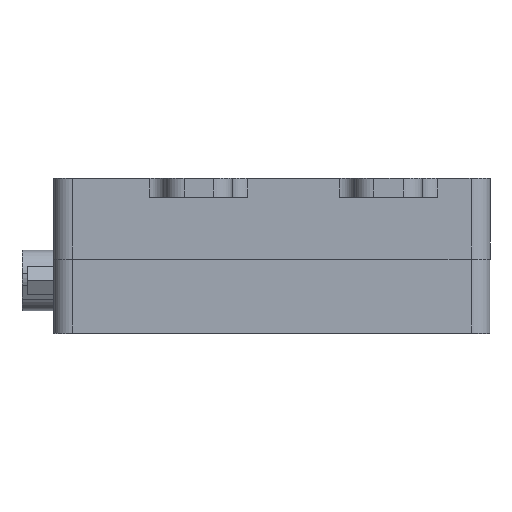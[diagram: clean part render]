
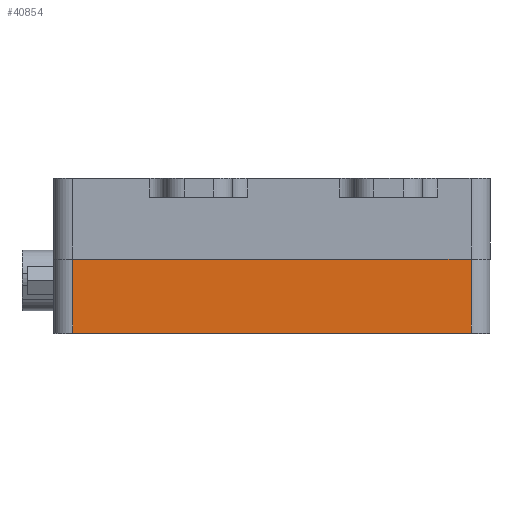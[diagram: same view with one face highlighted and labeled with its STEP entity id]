
A CAD part, top view. The second image highlights one B-rep face of the part: STEP entity #40854.
In plain terms, the highlighted planar face has unit normal (0, 0, 1).
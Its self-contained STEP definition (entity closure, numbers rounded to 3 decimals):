
#1086 = VECTOR ( 'NONE', #89242, 1000. ) ;
#12256 = EDGE_CURVE ( 'NONE', #56464, #29078, #24486, .T. ) ;
#14583 = CARTESIAN_POINT ( 'NONE',  ( -21.25, -9.5, 16.45 ) ) ;
#16089 = ORIENTED_EDGE ( 'NONE', *, *, #74497, .F. ) ;
#16714 = LINE ( 'NONE', #59207, #88074 ) ;
#18750 = CARTESIAN_POINT ( 'NONE',  ( 22.75, -9.5, 16.45 ) ) ;
#19506 = LINE ( 'NONE', #34004, #1086 ) ;
#21423 = PLANE ( 'NONE',  #87501 ) ;
#21702 = CARTESIAN_POINT ( 'NONE',  ( 22.75, -2.2, 16.45 ) ) ;
#24486 = LINE ( 'NONE', #18750, #61167 ) ;
#26029 = CARTESIAN_POINT ( 'NONE',  ( 20.75, -2.2, 16.45 ) ) ;
#28647 = DIRECTION ( 'NONE',  ( -1., 0., 0. ) ) ;
#29078 = VERTEX_POINT ( 'NONE', #66154 ) ;
#30329 = EDGE_CURVE ( 'NONE', #29078, #54381, #81608, .T. ) ;
#31745 = DIRECTION ( 'NONE',  ( 0., -1., 0. ) ) ;
#31830 = ORIENTED_EDGE ( 'NONE', *, *, #30329, .T. ) ;
#34004 = CARTESIAN_POINT ( 'NONE',  ( 22.75, -1.7, 16.45 ) ) ;
#34933 = EDGE_CURVE ( 'NONE', #57916, #56464, #16714, .T. ) ;
#38638 = ORIENTED_EDGE ( 'NONE', *, *, #34933, .T. ) ;
#40854 = ADVANCED_FACE ( 'NONE', ( #41846 ), #21423, .F. ) ;
#41846 = FACE_OUTER_BOUND ( 'NONE', #84912, .T. ) ;
#48560 = CARTESIAN_POINT ( 'NONE',  ( 20.75, -1.7, 16.45 ) ) ;
#53781 = ORIENTED_EDGE ( 'NONE', *, *, #12256, .T. ) ;
#54381 = VERTEX_POINT ( 'NONE', #48560 ) ;
#56464 = VERTEX_POINT ( 'NONE', #14583 ) ;
#57916 = VERTEX_POINT ( 'NONE', #81765 ) ;
#59207 = CARTESIAN_POINT ( 'NONE',  ( -21.25, -2.2, 16.45 ) ) ;
#61167 = VECTOR ( 'NONE', #66989, 1000. ) ;
#63187 = VECTOR ( 'NONE', #88510, 1000. ) ;
#66154 = CARTESIAN_POINT ( 'NONE',  ( 20.75, -9.5, 16.45 ) ) ;
#66989 = DIRECTION ( 'NONE',  ( 1., 0., 0. ) ) ;
#69940 = DIRECTION ( 'NONE',  ( 0., 0., -1. ) ) ;
#74497 = EDGE_CURVE ( 'NONE', #57916, #54381, #19506, .T. ) ;
#81608 = LINE ( 'NONE', #26029, #63187 ) ;
#81765 = CARTESIAN_POINT ( 'NONE',  ( -21.25, -1.7, 16.45 ) ) ;
#84912 = EDGE_LOOP ( 'NONE', ( #16089, #38638, #53781, #31830 ) ) ;
#87501 = AXIS2_PLACEMENT_3D ( 'NONE', #21702, #69940, #28647 ) ;
#88074 = VECTOR ( 'NONE', #31745, 1000. ) ;
#88510 = DIRECTION ( 'NONE',  ( 0., 1., 0. ) ) ;
#89242 = DIRECTION ( 'NONE',  ( 1., 0., 0. ) ) ;
